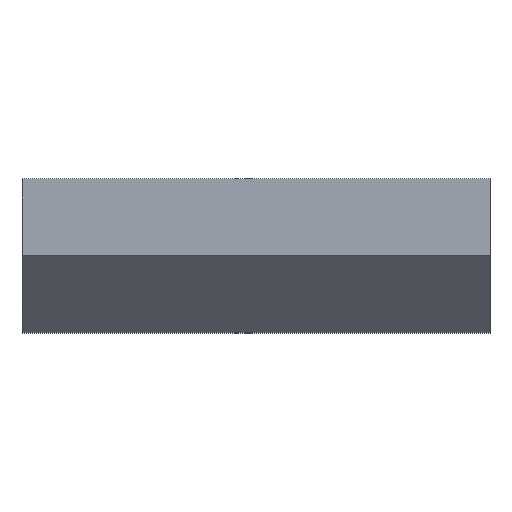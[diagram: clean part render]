
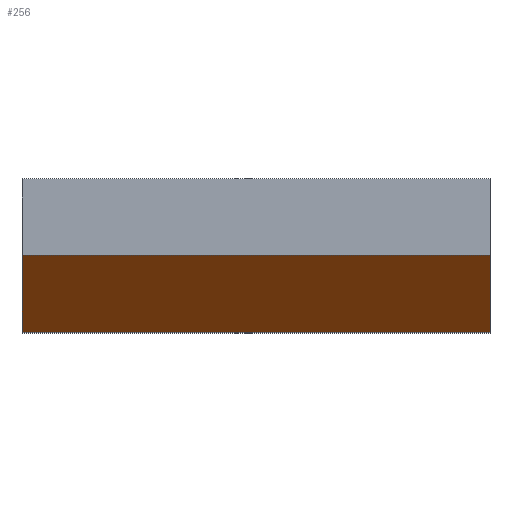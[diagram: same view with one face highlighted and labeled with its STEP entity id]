
A CAD part, top view. The second image highlights one B-rep face of the part: STEP entity #256.
In plain terms, the highlighted planar face has unit normal (0, -0.707, 0.707).
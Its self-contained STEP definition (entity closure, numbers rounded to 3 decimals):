
#39 = VERTEX_POINT('',#40);
#40 = CARTESIAN_POINT('',(0.,0.,18.495)
  );
#47 = PLANE('',#48);
#48 = AXIS2_PLACEMENT_3D('',#49,#50,#51);
#49 = CARTESIAN_POINT('',(0.,0.,0.));
#50 = DIRECTION('',(1.,0.,0.));
#51 = DIRECTION('',(0.,0.,1.));
#59 = PLANE('',#60);
#60 = AXIS2_PLACEMENT_3D('',#61,#62,#63);
#61 = CARTESIAN_POINT('',(0.,0.,0.));
#62 = DIRECTION('',(0.,1.,0.));
#63 = DIRECTION('',(0.,0.,1.));
#128 = VERTEX_POINT('',#129);
#129 = CARTESIAN_POINT('',(0.,2.605,21.1));
#143 = PLANE('',#144);
#144 = AXIS2_PLACEMENT_3D('',#145,#146,#147);
#145 = CARTESIAN_POINT('',(0.,0.,21.1));
#146 = DIRECTION('',(0.,0.,1.));
#147 = DIRECTION('',(1.,0.,0.));
#155 = EDGE_CURVE('',#39,#128,#156,.T.);
#156 = SURFACE_CURVE('',#157,(#161,#168),.PCURVE_S1.);
#157 = LINE('',#158,#159);
#158 = CARTESIAN_POINT('',(0.,-3.973,14.523));
#159 = VECTOR('',#160,1.);
#160 = DIRECTION('',(-0.,0.707,0.707));
#161 = PCURVE('',#47,#162);
#162 = DEFINITIONAL_REPRESENTATION('',(#163),#167);
#163 = LINE('',#164,#165);
#164 = CARTESIAN_POINT('',(14.523,3.973));
#165 = VECTOR('',#166,1.);
#166 = DIRECTION('',(0.707,-0.707));
#167 = ( GEOMETRIC_REPRESENTATION_CONTEXT(2) 
PARAMETRIC_REPRESENTATION_CONTEXT() REPRESENTATION_CONTEXT('2D SPACE',''
  ) );
#168 = PCURVE('',#169,#174);
#169 = PLANE('',#170);
#170 = AXIS2_PLACEMENT_3D('',#171,#172,#173);
#171 = CARTESIAN_POINT('',(0.,1.303,19.798));
#172 = DIRECTION('',(0.,0.707,-0.707)
  );
#173 = DIRECTION('',(-1.,0.,0.));
#174 = DEFINITIONAL_REPRESENTATION('',(#175),#179);
#175 = LINE('',#176,#177);
#176 = CARTESIAN_POINT('',(0.,-7.46));
#177 = VECTOR('',#178,1.);
#178 = DIRECTION('',(-0.,1.));
#179 = ( GEOMETRIC_REPRESENTATION_CONTEXT(2) 
PARAMETRIC_REPRESENTATION_CONTEXT() REPRESENTATION_CONTEXT('2D SPACE',''
  ) );
#187 = VERTEX_POINT('',#188);
#188 = CARTESIAN_POINT('',(15.915,0.,18.495));
#202 = PLANE('',#203);
#203 = AXIS2_PLACEMENT_3D('',#204,#205,#206);
#204 = CARTESIAN_POINT('',(15.915,0.,0.));
#205 = DIRECTION('',(1.,0.,0.));
#206 = DIRECTION('',(0.,0.,1.));
#236 = EDGE_CURVE('',#39,#187,#237,.T.);
#237 = SURFACE_CURVE('',#238,(#242,#249),.PCURVE_S1.);
#238 = LINE('',#239,#240);
#239 = CARTESIAN_POINT('',(0.,0.,18.495));
#240 = VECTOR('',#241,1.);
#241 = DIRECTION('',(1.,0.,0.));
#242 = PCURVE('',#59,#243);
#243 = DEFINITIONAL_REPRESENTATION('',(#244),#248);
#244 = LINE('',#245,#246);
#245 = CARTESIAN_POINT('',(18.495,0.));
#246 = VECTOR('',#247,1.);
#247 = DIRECTION('',(0.,1.));
#248 = ( GEOMETRIC_REPRESENTATION_CONTEXT(2) 
PARAMETRIC_REPRESENTATION_CONTEXT() REPRESENTATION_CONTEXT('2D SPACE',''
  ) );
#249 = PCURVE('',#169,#250);
#250 = DEFINITIONAL_REPRESENTATION('',(#251),#255);
#251 = LINE('',#252,#253);
#252 = CARTESIAN_POINT('',(0.,-1.842));
#253 = VECTOR('',#254,1.);
#254 = DIRECTION('',(-1.,0.));
#255 = ( GEOMETRIC_REPRESENTATION_CONTEXT(2) 
PARAMETRIC_REPRESENTATION_CONTEXT() REPRESENTATION_CONTEXT('2D SPACE',''
  ) );
#256 = ADVANCED_FACE('',(#257),#169,.F.);
#257 = FACE_BOUND('',#258,.T.);
#258 = EDGE_LOOP('',(#259,#260,#261,#284));
#259 = ORIENTED_EDGE('',*,*,#155,.F.);
#260 = ORIENTED_EDGE('',*,*,#236,.T.);
#261 = ORIENTED_EDGE('',*,*,#262,.T.);
#262 = EDGE_CURVE('',#187,#263,#265,.T.);
#263 = VERTEX_POINT('',#264);
#264 = CARTESIAN_POINT('',(15.915,2.605,21.1));
#265 = SURFACE_CURVE('',#266,(#270,#277),.PCURVE_S1.);
#266 = LINE('',#267,#268);
#267 = CARTESIAN_POINT('',(15.915,-3.973,14.523));
#268 = VECTOR('',#269,1.);
#269 = DIRECTION('',(-0.,0.707,0.707));
#270 = PCURVE('',#169,#271);
#271 = DEFINITIONAL_REPRESENTATION('',(#272),#276);
#272 = LINE('',#273,#274);
#273 = CARTESIAN_POINT('',(-15.915,-7.46));
#274 = VECTOR('',#275,1.);
#275 = DIRECTION('',(-0.,1.));
#276 = ( GEOMETRIC_REPRESENTATION_CONTEXT(2) 
PARAMETRIC_REPRESENTATION_CONTEXT() REPRESENTATION_CONTEXT('2D SPACE',''
  ) );
#277 = PCURVE('',#202,#278);
#278 = DEFINITIONAL_REPRESENTATION('',(#279),#283);
#279 = LINE('',#280,#281);
#280 = CARTESIAN_POINT('',(14.523,3.973));
#281 = VECTOR('',#282,1.);
#282 = DIRECTION('',(0.707,-0.707));
#283 = ( GEOMETRIC_REPRESENTATION_CONTEXT(2) 
PARAMETRIC_REPRESENTATION_CONTEXT() REPRESENTATION_CONTEXT('2D SPACE',''
  ) );
#284 = ORIENTED_EDGE('',*,*,#285,.F.);
#285 = EDGE_CURVE('',#128,#263,#286,.T.);
#286 = SURFACE_CURVE('',#287,(#291,#298),.PCURVE_S1.);
#287 = LINE('',#288,#289);
#288 = CARTESIAN_POINT('',(0.,2.605,21.1));
#289 = VECTOR('',#290,1.);
#290 = DIRECTION('',(1.,0.,0.));
#291 = PCURVE('',#169,#292);
#292 = DEFINITIONAL_REPRESENTATION('',(#293),#297);
#293 = LINE('',#294,#295);
#294 = CARTESIAN_POINT('',(0.,1.842));
#295 = VECTOR('',#296,1.);
#296 = DIRECTION('',(-1.,0.));
#297 = ( GEOMETRIC_REPRESENTATION_CONTEXT(2) 
PARAMETRIC_REPRESENTATION_CONTEXT() REPRESENTATION_CONTEXT('2D SPACE',''
  ) );
#298 = PCURVE('',#143,#299);
#299 = DEFINITIONAL_REPRESENTATION('',(#300),#304);
#300 = LINE('',#301,#302);
#301 = CARTESIAN_POINT('',(0.,2.605));
#302 = VECTOR('',#303,1.);
#303 = DIRECTION('',(1.,0.));
#304 = ( GEOMETRIC_REPRESENTATION_CONTEXT(2) 
PARAMETRIC_REPRESENTATION_CONTEXT() REPRESENTATION_CONTEXT('2D SPACE',''
  ) );
